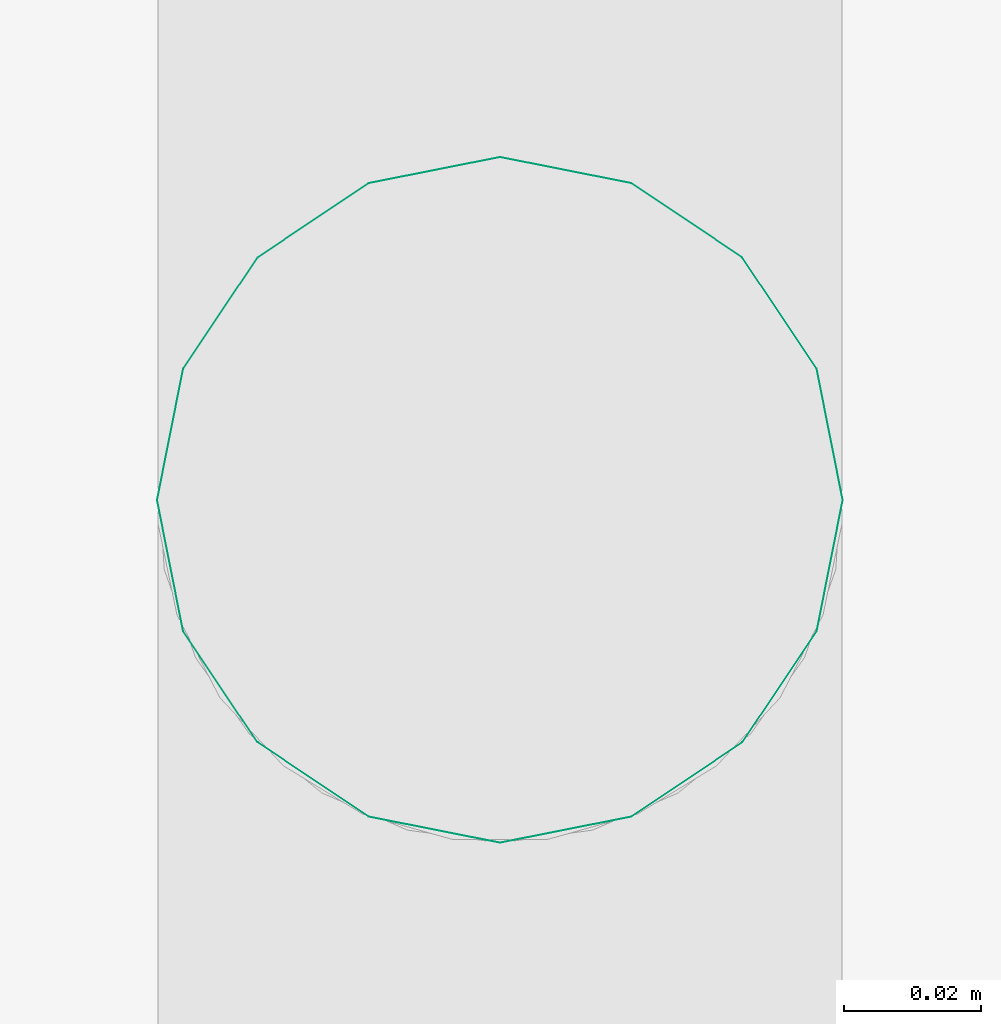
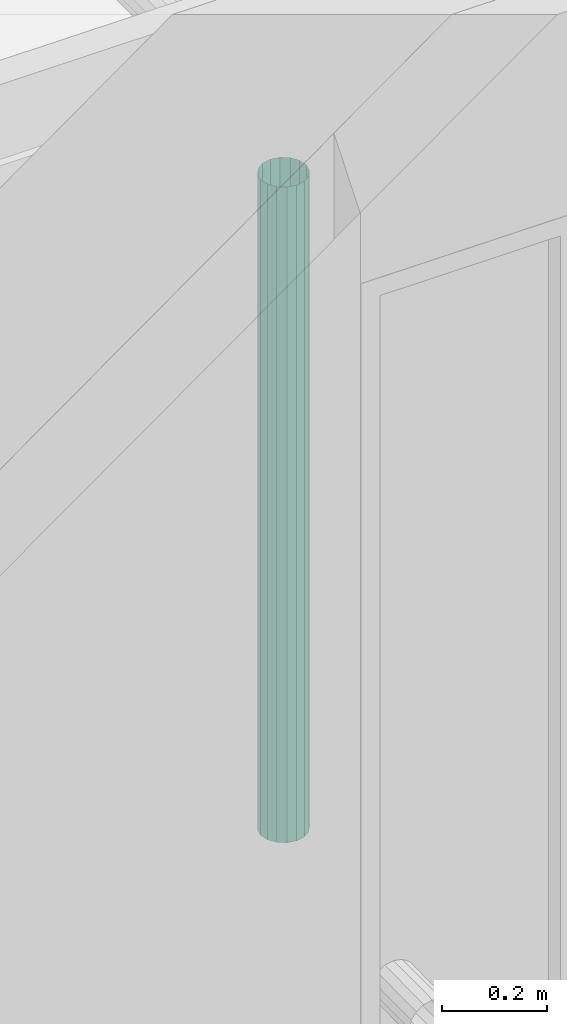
# One storey, part 37 of 106: 1 flow segment.
"""IFC2X3 building model written with IfcOpenShell, lengths in metres."""

from ifc_helpers import new_model, entity, si_unit, converted_unit, derived_unit, money_unit, direction, frame, origin_with_axes, place, context, subcontext, project, spatial, faceted_brep, material, type_object, element, save


model = new_model("IFC2X3")

# Units and contexts
model_context = context("Model", 3, precision=1e-05, world=origin_with_axes(), true_north=direction((0.0, 1.0)))
body_context = subcontext(model_context, "Body", "Model", "MODEL_VIEW", scale=1.0)
ifc_project = project(units=[si_unit("LENGTHUNIT", "METRE"), si_unit("AREAUNIT", "SQUARE_METRE"), si_unit("VOLUMEUNIT", "CUBIC_METRE"), si_unit("ABSORBEDDOSEUNIT", "GRAY"), si_unit("AMOUNTOFSUBSTANCEUNIT", "MOLE"), si_unit("DOSEEQUIVALENTUNIT", "SIEVERT"), si_unit("ELECTRICCAPACITANCEUNIT", "FARAD"), si_unit("ELECTRICCHARGEUNIT", "COULOMB"), si_unit("ELECTRICCONDUCTANCEUNIT", "SIEMENS"), si_unit("ELECTRICCURRENTUNIT", "AMPERE"), si_unit("ELECTRICRESISTANCEUNIT", "OHM"), si_unit("ELECTRICVOLTAGEUNIT", "VOLT"), si_unit("ENERGYUNIT", "JOULE"), si_unit("FORCEUNIT", "NEWTON"), si_unit("FREQUENCYUNIT", "HERTZ"), si_unit("ILLUMINANCEUNIT", "LUX"), si_unit("INDUCTANCEUNIT", "HENRY"), si_unit("LUMINOUSFLUXUNIT", "LUMEN"), si_unit("LUMINOUSINTENSITYUNIT", "CANDELA"), si_unit("MAGNETICFLUXDENSITYUNIT", "TESLA"), si_unit("MAGNETICFLUXUNIT", "WEBER"), si_unit("MASSUNIT", "GRAM"), converted_unit("PLANEANGLEUNIT", "degree", entity("IfcReal", 0.0174532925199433), si_unit("PLANEANGLEUNIT", "RADIAN"), dimensions=[0, 0, 0, 0, 0, 0, 0]), si_unit("POWERUNIT", "WATT"), si_unit("PRESSUREUNIT", "PASCAL"), si_unit("RADIOACTIVITYUNIT", "BECQUEREL"), si_unit("SOLIDANGLEUNIT", "STERADIAN"), si_unit("THERMODYNAMICTEMPERATUREUNIT", "KELVIN"), si_unit("TIMEUNIT", "SECOND"), derived_unit("ACCELERATIONUNIT", [(si_unit("LENGTHUNIT", "METRE"), 1), (si_unit("TIMEUNIT", "SECOND"), -2)]), derived_unit("ANGULARVELOCITYUNIT", [(converted_unit("PLANEANGLEUNIT", "degree", entity("IfcReal", 0.0174532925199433), si_unit("PLANEANGLEUNIT", "RADIAN"), dimensions=[0, 0, 0, 0, 0, 0, 0]), 1), (si_unit("TIMEUNIT", "SECOND"), -1)]), derived_unit("CURVATUREUNIT", [(converted_unit("PLANEANGLEUNIT", "degree", entity("IfcReal", 0.0174532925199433), si_unit("PLANEANGLEUNIT", "RADIAN"), dimensions=[0, 0, 0, 0, 0, 0, 0]), 1), (si_unit("LENGTHUNIT", "METRE"), -1)]), derived_unit("DYNAMICVISCOSITYUNIT", [(si_unit("PRESSUREUNIT", "PASCAL"), 1), (si_unit("TIMEUNIT", "SECOND"), 1)]), derived_unit("HEATFLUXDENSITYUNIT", [(si_unit("POWERUNIT", "WATT"), 1), (si_unit("LENGTHUNIT", "METRE"), -2)]), derived_unit("HEATINGVALUEUNIT", [(si_unit("ENERGYUNIT", "JOULE"), 1), (si_unit("MASSUNIT", "GRAM"), -1)]), derived_unit("INTEGERCOUNTRATEUNIT", [(si_unit("TIMEUNIT", "SECOND"), -1)]), derived_unit("IONCONCENTRATIONUNIT", [(si_unit("MASSUNIT", "GRAM"), 1), (si_unit("VOLUMEUNIT", "CUBIC_METRE"), -1)]), derived_unit("ISOTHERMALMOISTURECAPACITYUNIT", [(si_unit("VOLUMEUNIT", "CUBIC_METRE"), 1), (si_unit("MASSUNIT", "GRAM"), -1)]), derived_unit("KINEMATICVISCOSITYUNIT", [(si_unit("AREAUNIT", "SQUARE_METRE"), 1), (si_unit("TIMEUNIT", "SECOND"), -1)]), derived_unit("LINEARFORCEUNIT", [(si_unit("FORCEUNIT", "NEWTON"), 1), (si_unit("LENGTHUNIT", "METRE"), -1)]), derived_unit("LINEARMOMENTUNIT", [(si_unit("FORCEUNIT", "NEWTON"), 1), (si_unit("LENGTHUNIT", "METRE"), -1)]), derived_unit("LINEARSTIFFNESSUNIT", [(si_unit("FORCEUNIT", "NEWTON"), 1), (si_unit("LENGTHUNIT", "METRE"), -1)]), derived_unit("LINEARVELOCITYUNIT", [(si_unit("LENGTHUNIT", "METRE"), 1), (si_unit("TIMEUNIT", "SECOND"), -1)]), derived_unit("LUMINOUSINTENSITYDISTRIBUTIONUNIT", [(si_unit("LUMINOUSINTENSITYUNIT", "CANDELA"), 1), (si_unit("LUMINOUSFLUXUNIT", "LUMEN"), -1)]), derived_unit("MASSDENSITYUNIT", [(si_unit("MASSUNIT", "GRAM"), 1), (si_unit("VOLUMEUNIT", "CUBIC_METRE"), -1)]), derived_unit("MASSFLOWRATEUNIT", [(si_unit("MASSUNIT", "GRAM"), 1), (si_unit("TIMEUNIT", "SECOND"), -1)]), derived_unit("MASSPERLENGTHUNIT", [(si_unit("MASSUNIT", "GRAM"), 1), (si_unit("LENGTHUNIT", "METRE"), -1)]), derived_unit("MODULUSOFELASTICITYUNIT", [(si_unit("FORCEUNIT", "NEWTON"), 1), (si_unit("AREAUNIT", "SQUARE_METRE"), -1)]), derived_unit("MODULUSOFLINEARSUBGRADEREACTIONUNIT", [(si_unit("FORCEUNIT", "NEWTON"), 1), (si_unit("LENGTHUNIT", "METRE"), -2)]), derived_unit("MODULUSOFROTATIONALSUBGRADEREACTIONUNIT", [(si_unit("FORCEUNIT", "NEWTON"), 1), (si_unit("LENGTHUNIT", "METRE"), 1)]), derived_unit("MODULUSOFSUBGRADEREACTIONUNIT", [(si_unit("FORCEUNIT", "NEWTON"), 1), (si_unit("VOLUMEUNIT", "CUBIC_METRE"), -1)]), derived_unit("MOISTUREDIFFUSIVITYUNIT", [(si_unit("VOLUMEUNIT", "CUBIC_METRE"), 1), (si_unit("TIMEUNIT", "SECOND"), -1)]), derived_unit("MOLECULARWEIGHTUNIT", [(si_unit("MASSUNIT", "GRAM"), 1), (si_unit("AMOUNTOFSUBSTANCEUNIT", "MOLE"), -1)]), derived_unit("PLANARFORCEUNIT", [(si_unit("FORCEUNIT", "NEWTON"), 1), (si_unit("LENGTHUNIT", "METRE"), -2)]), derived_unit("ROTATIONALFREQUENCYUNIT", [(si_unit("TIMEUNIT", "SECOND"), -1)]), derived_unit("ROTATIONALMASSUNIT", [(si_unit("MASSUNIT", "GRAM"), 1), (si_unit("LENGTHUNIT", "METRE"), 2)]), derived_unit("ROTATIONALSTIFFNESSUNIT", [(si_unit("FORCEUNIT", "NEWTON"), 1), (si_unit("LENGTHUNIT", "METRE"), 1), (converted_unit("PLANEANGLEUNIT", "degree", entity("IfcReal", 0.0174532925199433), si_unit("PLANEANGLEUNIT", "RADIAN"), dimensions=[0, 0, 0, 0, 0, 0, 0]), -1)]), derived_unit("SECTIONAREAINTEGRALUNIT", [(si_unit("LENGTHUNIT", "METRE"), 5)]), derived_unit("SECTIONMODULUSUNIT", [(si_unit("LENGTHUNIT", "METRE"), 3)]), derived_unit("SHEARMODULUSUNIT", [(si_unit("FORCEUNIT", "NEWTON"), 1), (si_unit("AREAUNIT", "SQUARE_METRE"), -1)]), derived_unit("SOUNDPOWERUNIT", [(si_unit("ENERGYUNIT", "JOULE"), 1), (si_unit("TIMEUNIT", "SECOND"), -1)]), derived_unit("SPECIFICHEATCAPACITYUNIT", [(si_unit("FORCEUNIT", "NEWTON"), 1), (si_unit("MASSUNIT", "GRAM"), -1), (si_unit("THERMODYNAMICTEMPERATUREUNIT", "KELVIN"), -1)]), derived_unit("TEMPERATUREGRADIENTUNIT", [(si_unit("THERMODYNAMICTEMPERATUREUNIT", "KELVIN"), 1), (si_unit("LENGTHUNIT", "METRE"), -1)]), derived_unit("THERMALADMITTANCEUNIT", [(si_unit("POWERUNIT", "WATT"), 1), (si_unit("AREAUNIT", "SQUARE_METRE"), -1), (si_unit("THERMODYNAMICTEMPERATUREUNIT", "KELVIN"), -1)]), derived_unit("THERMALCONDUCTANCEUNIT", [(si_unit("POWERUNIT", "WATT"), 1), (si_unit("LENGTHUNIT", "METRE"), -1), (si_unit("THERMODYNAMICTEMPERATUREUNIT", "KELVIN"), -1)]), derived_unit("THERMALEXPANSIONCOEFFICIENTUNIT", [(si_unit("THERMODYNAMICTEMPERATUREUNIT", "KELVIN"), -1)]), derived_unit("THERMALRESISTANCEUNIT", [(si_unit("AREAUNIT", "SQUARE_METRE"), 1), (si_unit("POWERUNIT", "WATT"), -1)]), derived_unit("THERMALTRANSMITTANCEUNIT", [(si_unit("POWERUNIT", "WATT"), 1), (si_unit("AREAUNIT", "SQUARE_METRE"), -1), (si_unit("THERMODYNAMICTEMPERATUREUNIT", "KELVIN"), -1)]), derived_unit("TORQUEUNIT", [(si_unit("FORCEUNIT", "NEWTON"), 1), (si_unit("LENGTHUNIT", "METRE"), 1)]), derived_unit("VAPORPERMEABILITYUNIT", [(si_unit("MASSUNIT", "GRAM"), 1), (si_unit("TIMEUNIT", "SECOND"), -1)]), derived_unit("VOLUMETRICFLOWRATEUNIT", [(si_unit("VOLUMEUNIT", "CUBIC_METRE"), 1), (si_unit("TIMEUNIT", "SECOND"), -1)]), derived_unit("WARPINGCONSTANTUNIT", [(si_unit("LENGTHUNIT", "METRE"), 6)]), derived_unit("WARPINGMOMENTUNIT", [(si_unit("FORCEUNIT", "NEWTON"), 1), (si_unit("LENGTHUNIT", "METRE"), 2)]), money_unit("GBP")], contexts=[model_context])

# Site, building, storey, space
site_placement = place(None, origin_with_axes())
site = spatial("IfcSite", under=ifc_project, at=site_placement, Name="Site", CompositionType="ELEMENT")
building_placement = place(site_placement, origin_with_axes())
building = spatial("IfcBuilding", under=site, at=building_placement, Name="Building01", CompositionType="ELEMENT")
storey_placement = place(building_placement, origin_with_axes())
storey = spatial("IfcBuildingStorey", under=building, at=storey_placement, Name="GF", CompositionType="ELEMENT", Elevation=0.0)
space_placement = place(storey_placement, frame((14.38433, 4.15747, 0.0), z_axis=(0.0, 0.0, 1.0), x_axis=(0.0, -1.0, 0.0)))
space = spatial("IfcSpace", under=storey, at=space_placement, Name="1", CompositionType="ELEMENT", InteriorOrExteriorSpace="NOTDEFINED")

# Flow segment
ifc_material = material(Name="M_BSUK_ColdWater")
pipe_segment_type = type_object("IfcPipeSegmentType", Name="M-BmpStraightpipe-DefaultPipe", PredefinedType="RIGIDSEGMENT")
flow_segment_placement = place(storey_placement, frame((15.645168, 3.923337, 2.069286), z_axis=(1.0, 0.0, 0.0), x_axis=(0.0, 0.0, -1.0)))
element("IfcFlowSegment", 1, at=flow_segment_placement, inside=space, type_object=pipe_segment_type, material=ifc_material, Name="M-BmpStraightpipe-DefaultPipe", ObjectType="M-BmpStraightpipe-DefaultPipe", context=body_context, shape_type="Brep", body=[
    faceted_brep([(1.519298, 0.0, -0.05), (0.0, 0.0, -0.05), (0.0, 0.019134, -0.046194), (1.519298, 0.019134, -0.046194), (0.0, 0.035355, -0.035355), (1.519298, 0.035355, -0.035355), (0.0, 0.046194, -0.019134), (1.519298, 0.046194, -0.019134), (0.0, 0.05, 0.0), (1.519298, 0.05, 0.0), (0.0, 0.046194, 0.019134), (1.519298, 0.046194, 0.019134), (0.0, 0.035355, 0.035355), (1.519298, 0.035355, 0.035355), (0.0, 0.019134, 0.046194), (1.519298, 0.019134, 0.046194), (0.0, 0.0, 0.05), (1.519298, 0.0, 0.05), (0.0, -0.019134, 0.046194), (1.519298, -0.019134, 0.046194), (0.0, -0.035355, 0.035355), (1.519298, -0.035355, 0.035355), (0.0, -0.046194, 0.019134), (1.519298, -0.046194, 0.019134), (0.0, -0.05, 0.0), (1.519298, -0.05, 0.0), (0.0, -0.046194, -0.019134), (1.519298, -0.046194, -0.019134), (0.0, -0.035355, -0.035355), (1.519298, -0.035355, -0.035355), (0.0, -0.019134, -0.046194), (1.519298, -0.019134, -0.046194)], [[[0, 1, 2, 3]], [[3, 2, 4, 5]], [[5, 4, 6, 7]], [[7, 6, 8, 9]], [[9, 8, 10, 11]], [[11, 10, 12, 13]], [[13, 12, 14, 15]], [[15, 14, 16, 17]], [[17, 16, 18, 19]], [[19, 18, 20, 21]], [[21, 20, 22, 23]], [[23, 22, 24, 25]], [[25, 24, 26, 27]], [[27, 26, 28, 29]], [[29, 28, 30, 31]], [[31, 30, 1, 0]]]),
])

save(model, "model.ifc")
